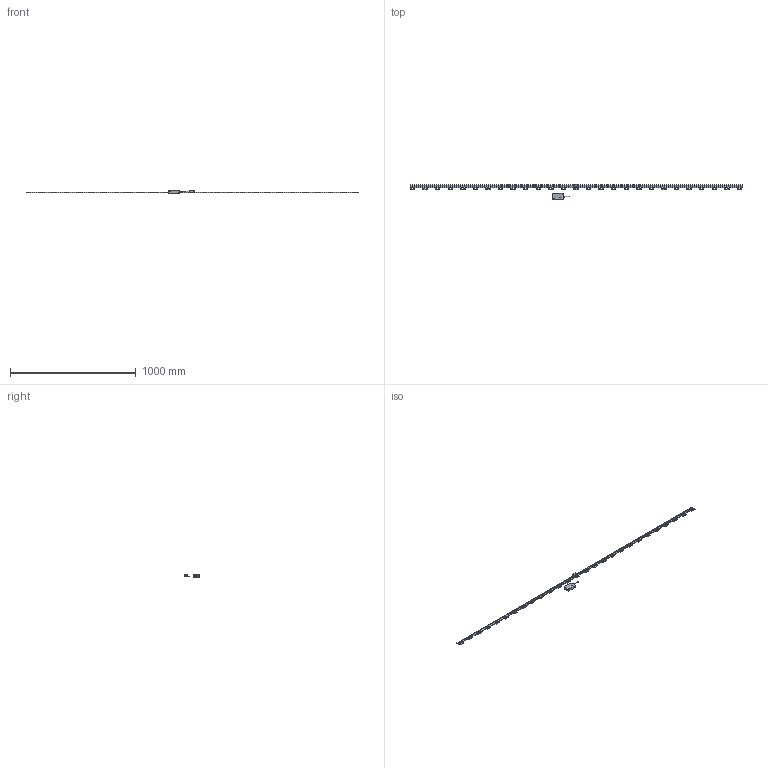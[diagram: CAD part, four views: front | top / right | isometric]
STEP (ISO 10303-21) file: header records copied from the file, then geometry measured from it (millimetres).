
FILE_DESCRIPTION(('Creo Elements/Direct Modeling STEP Export'),'2;1');
FILE_NAME('ST36-2600.stp','2018-03-23T15:03:29',(''),(''),'Creo Elements/Direct Modeling STEP processor for AP214 (Solid Model)','Creo Elements/Direct Modeling 18.1B 29-Sep-2012 (C) Parametric Technology GmbH','');
FILE_SCHEMA(('AUTOMOTIVE_DESIGN { 1 0 10303 214 1 1 1 1 }'));
Length unit declared in the file: millimetre
Products named in the file (4): DetectorHead; IFbox; Scale_2600; ST36-2600
Assembly tree (3 placements, depth 2):
  ST36-2600
    Scale_2600
    IFbox
    DetectorHead
Bounding box: 2640 x 123 x 19.9 mm (x, y, z)
Volume: 371862.1 mm3; surface area: 191456.1 mm2
Topology: 3 solids, 5 shells, 1277 faces, 3661 edges, 2417 vertices
Faces by surface type: plane 751, cylinder 488, cone 28, torus 8, bspline 2
Entity records: 39158 total; most frequent: ORIENTED_EDGE 7322, CARTESIAN_POINT 6691, DIRECTION 5881, EDGE_CURVE 3661, VERTEX_POINT 2417, VECTOR 2245, LINE 2245, AXIS2_PLACEMENT_3D 1818
